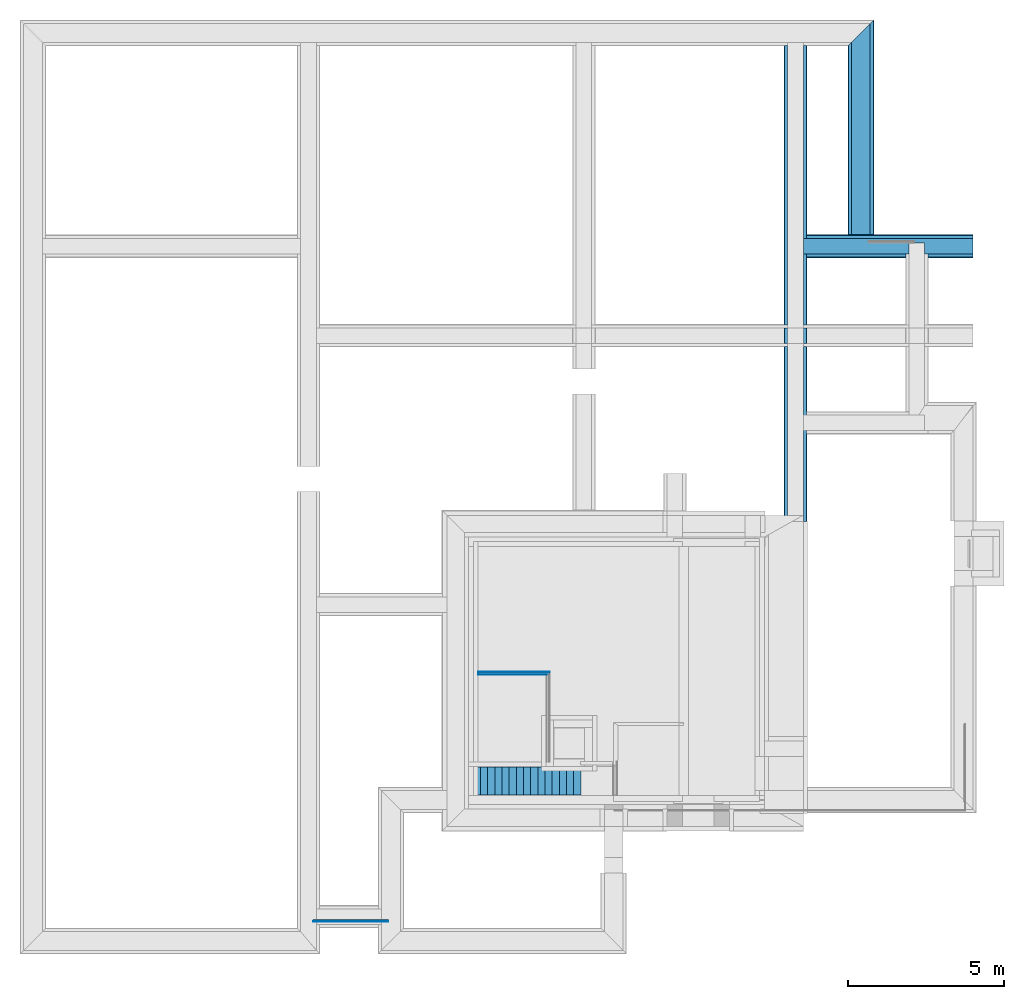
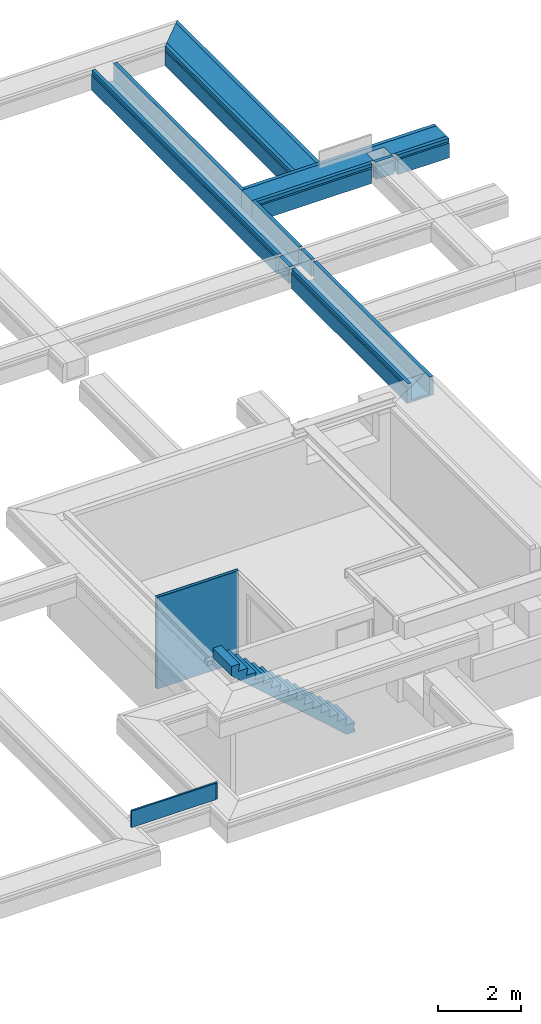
# One storey, part 5 of 11: 5 beams, 5 building element parts, 1 stair flight, 3 elements without a shape of their own.
"""IFC2X3 building model written with IfcOpenShell, lengths in millimetres."""

from ifc_helpers import new_model, entity, si_unit, converted_unit, derived_unit, money_unit, direction, frame, origin_with_axes, place, context, subcontext, project, spatial, faceted_brep, material, type_object, element, aggregate, save


model = new_model("IFC2X3")

# Units and contexts
model_context = context("Model", 3, precision=0.01, world=origin_with_axes(), true_north=direction((0.0, 1.0)))
body_context = subcontext(model_context, "Body", "Model", "MODEL_VIEW")
ifc_project = project(units=[si_unit("LENGTHUNIT", "METRE", prefix="MILLI"), si_unit("AREAUNIT", "SQUARE_METRE"), si_unit("VOLUMEUNIT", "CUBIC_METRE"), converted_unit("PLANEANGLEUNIT", "DEGREE", entity("IfcPlaneAngleMeasure", 0.0174532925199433), si_unit("PLANEANGLEUNIT", "RADIAN"), dimensions=[0, 0, 0, 0, 0, 0, 0]), money_unit("EUR"), converted_unit("TIMEUNIT", "Year", entity("IfcTimeMeasure", 31556926.0), si_unit("TIMEUNIT", "SECOND"), dimensions=[0, 0, 1, 0, 0, 0, 0]), si_unit("MASSUNIT", "GRAM", prefix="KILO"), si_unit("THERMODYNAMICTEMPERATUREUNIT", "DEGREE_CELSIUS"), si_unit("LUMINOUSINTENSITYUNIT", "LUMEN"), si_unit("ENERGYUNIT", "JOULE", prefix="MEGA"), derived_unit("THERMALCONDUCTANCEUNIT", [(si_unit("POWERUNIT", "WATT"), 1), (si_unit("LENGTHUNIT", "METRE"), -1), (si_unit("THERMODYNAMICTEMPERATUREUNIT", "KELVIN"), -1)]), derived_unit("SPECIFICHEATCAPACITYUNIT", [(si_unit("ENERGYUNIT", "JOULE"), 1), (si_unit("MASSUNIT", "GRAM", prefix="KILO"), -1), (si_unit("THERMODYNAMICTEMPERATUREUNIT", "KELVIN"), -1)]), derived_unit("MASSDENSITYUNIT", [(si_unit("MASSUNIT", "GRAM", prefix="KILO"), 1), (si_unit("VOLUMEUNIT", "CUBIC_METRE"), -1)])], contexts=[model_context])

# Site, building, storey
site_placement = place(None, origin_with_axes())
site = spatial("IfcSite", under=ifc_project, at=site_placement, Name="Site", CompositionType="ELEMENT")
building_placement = place(site_placement, origin_with_axes())
building = spatial("IfcBuilding", under=site, at=building_placement, Name="Naam gebouw", CompositionType="ELEMENT")
storey_placement = place(building_placement, frame((0.0, 0.0, -3060.0), z_axis=(0.0, 0.0, 1.0), x_axis=(1.0, 0.0, 0.0)))
storey = spatial("IfcBuildingStorey", under=building, at=storey_placement, Name="Kelder", CompositionType="ELEMENT", Elevation=-3060.0)

# Beams
ifc_material_1 = material(Name="Beton gewapend C")
beam_type_1 = type_object("IfcBeamType", Name="16 Fundering - betonbalk 600 x 500", PredefinedType="BEAM")
beam_1_placement = place(storey_placement, frame((26600.00000000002, 29175.0, 2575.0), z_axis=(0.0, 0.0, 1.0), x_axis=(-1.0, 0.0, 0.0)))
element("IfcBeam", 1, at=beam_1_placement, inside=storey, type_object=beam_type_1, material=ifc_material_1, Name="f2- Met cement gebonden producten (alle vulmiddelen)_Regenwaterafvoer-x", ObjectType="BEAM", context=body_context, shape_type="Brep", body=[
    faceted_brep([(300.0000000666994, 300.0000000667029, 0.0), (300.0000000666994, 6600.023785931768, 0.0), (-300.0000000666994, 6600.023785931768, 0.0), (-300.0000000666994, -300.0000000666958, 0.0), (300.0000000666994, 300.0000000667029, -500.0000000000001), (300.0000000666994, 6600.023785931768, -500.0000000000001), (-300.0000000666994, 6600.023785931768, -500.0000000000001), (-300.0000000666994, -300.0000000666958, -500.0000000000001)], [[[0, 1, 2, 3]], [[4, 5, 1, 0]], [[5, 6, 2, 1]], [[3, 2, 6, 7]], [[4, 0, 3, 7]], [[7, 6, 5, 4]]]),
])
beam_type_2 = type_object("IfcBeamType", Name="16 Fundering - betonbalk 500 x 500", PredefinedType="BEAM")
beam_2_placement = place(storey_placement, frame((24499.9990399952, 22324.97621406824, 2575.0), z_axis=(0.0, 0.0, 1.0), x_axis=(0.0, -1.0, 0.0)))
element("IfcBeam", 2, at=beam_2_placement, inside=storey, type_object=beam_type_2, material=ifc_material_1, Name="f2- Met cement gebonden producten (alle vulmiddelen)_Regenwaterafvoer-x", ObjectType="BEAM", context=body_context, shape_type="Brep", body=[
    faceted_brep([(250.0, 250.0004497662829, 0.0), (250.0, 3650.000935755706, 0.0), (-100.0000041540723, 3650.000940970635, 0.0), (-99.99999670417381, 4150.000940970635, 0.0), (250.0, 4150.000935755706, 0.0), (250.0, 5700.000960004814, 0.0), (-250.0, 5700.000960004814, 0.0), (-250.0, 250.000419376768, 0.0), (250.0, 250.0004497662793, -500.0000000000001), (250.0, 3650.000935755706, -500.0000000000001), (-100.0000041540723, 3650.000940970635, -500.0000000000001), (-99.99999670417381, 4150.000940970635, -500.0000000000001), (250.0, 4150.000935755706, -500.0000000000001), (250.0, 5700.000960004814, -500.0000000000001), (-250.0, 5700.000960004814, -500.0000000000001), (-250.0, 250.0004193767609, -500.0000000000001)], [[[0, 1, 2, 3, 4, 5, 6, 7]], [[8, 9, 1, 0]], [[10, 2, 1, 9]], [[11, 3, 2, 10]], [[12, 4, 3, 11]], [[5, 4, 12, 13]], [[14, 6, 5, 13]], [[6, 14, 15, 7]], [[15, 8, 0, 7]], [[11, 10, 9, 8, 15, 14, 13, 12]]]),
])
ifc_material_2 = material(Name="Isolatie - Kunststof hard")
beam_type_3 = type_object("IfcBeamType", Name="16 Fundering - EPS kist 600x500 840 x 570", PredefinedType="BEAM")
beam_3_placement = place(storey_placement, frame((26599.99999999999, 29175.0, 2575.0), z_axis=(0.0, 0.0, 1.0), x_axis=(-1.0, 0.0, 0.0)))
element("IfcBeam", 3, at=beam_3_placement, inside=storey, type_object=beam_type_3, material=ifc_material_2, Name="n7 Kunststof met cellenstructuur_Regenwaterafvoer-x", ObjectType="BEAM", context=body_context, shape_type="Brep", body=[
    faceted_brep([(-399.9999999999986, -399.999999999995, -101.4342864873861), (-399.9999999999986, 6500.023782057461, -101.4342843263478), (-420.0000000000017, 6480.023785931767, -130.9350866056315), (-419.9999999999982, -419.9999999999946, -130.9350848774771), (-399.9999999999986, -399.999999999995, 0.0), (-399.9999999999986, 6500.023782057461, 5.364423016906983e-06), (-300.0000000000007, 6480.023785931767, -130.9350866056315), (-300.0000000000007, 6500.023782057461, -101.4342843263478), (-420.0000000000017, 6480.023785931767, -570.0000000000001), (-419.9999999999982, -419.9999999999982, -570.0000000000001), (399.9999999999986, 399.999999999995, 0.0), (300.0000000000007, 299.9999999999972, 0.0), (300.0000000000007, 299.9999999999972, -500.0000000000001), (-300.0000000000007, -299.9999999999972, -500.0000000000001), (-300.0000000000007, -299.9999999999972, 0.0), (420.0000000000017, 419.9999999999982, -570.0000000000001), (420.0000000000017, 419.9999999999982, -130.935084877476), (399.9999999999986, 399.999999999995, -101.434286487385), (-300.0000000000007, 6500.023782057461, 5.364423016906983e-06), (420.0000000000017, 6480.023785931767, -570.0000000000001), (-300.0000000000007, 6480.023785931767, -500.0000000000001), (300.0000000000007, 6480.023785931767, -500.0000000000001), (300.0000000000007, 6480.023785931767, -130.9350866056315), (420.0000000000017, 6480.023785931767, -130.9350866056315), (399.9999999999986, 6500.023782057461, 5.364423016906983e-06), (300.0000000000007, 6500.023782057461, 5.364423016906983e-06), (300.0000000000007, 6500.023782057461, -101.4342843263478), (399.9999999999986, 6500.023782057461, -101.4342843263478)], [[[0, 1, 2, 3]], [[4, 5, 1, 0]], [[6, 2, 1, 7]], [[3, 2, 8, 9]], [[10, 11, 12, 13, 14, 4, 0, 3, 9, 15, 16, 17]], [[14, 18, 5, 4]], [[7, 1, 5, 18]], [[19, 8, 2, 6, 20, 21, 22, 23]], [[6, 7, 18, 14, 13, 20]], [[9, 8, 19, 15]], [[10, 24, 25, 11]], [[26, 22, 21, 12, 11, 25]], [[12, 21, 20, 13]], [[15, 19, 23, 16]], [[16, 23, 27, 17]], [[17, 27, 24, 10]], [[23, 22, 26, 27]], [[27, 26, 25, 24]]]),
])
beam_type_4 = type_object("IfcBeamType", Name="16 Fundering - EPS kist 500x500 740 x 570", PredefinedType="BEAM")
beam_4_placement = place(storey_placement, frame((24499.99903999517, 22324.97621406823, 2575.0), z_axis=(0.0, 0.0, 1.0), x_axis=(0.0, -1.0, 0.0)))
element("IfcBeam", 4, at=beam_4_placement, inside=storey, type_object=beam_type_4, material=ifc_material_2, Name="n7 Kunststof met cellenstructuur_Regenwaterafvoer-x", ObjectType="BEAM", context=body_context, shape_type="Brep", body=[
    faceted_brep([(250.0, 4150.000935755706, 5.279321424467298e-08), (250.0, 3650.000935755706, 6.982331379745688e-08), (350.0000000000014, 3650.000934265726, 8.977280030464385e-08), (350.0000000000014, 4150.000934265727, 6.787698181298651e-08), (250.0, 4150.000935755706, -500.0000000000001), (250.0, 3650.000935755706, -500.0000000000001), (350.0000000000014, 3650.000934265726, -101.4342856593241), (370.000000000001, 3650.000933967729, -500.0000000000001), (370.000000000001, 3650.000933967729, -130.9350855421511), (350.0000000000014, 4150.000934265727, -101.4342858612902), (370.000000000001, 4150.000933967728, -500.0000000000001), (370.000000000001, 4150.000933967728, -130.9350853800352)], [[[0, 1, 2, 3]], [[4, 5, 1, 0]], [[6, 2, 1, 5, 7, 8]], [[6, 9, 3, 2]], [[10, 4, 0, 3, 9, 11]], [[7, 5, 4, 10]], [[7, 10, 11, 8]], [[8, 11, 9, 6]]]),
    faceted_brep([(-100.0000059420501, 3530.000940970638, -500.0000000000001), (-100.0000041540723, 3650.000940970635, -500.0000000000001), (-99.99999670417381, 4150.000940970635, -500.0000000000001), (-99.99999491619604, 4270.000940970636, -500.0000000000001), (250.0, 4270.000935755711, -500.0000000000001), (250.0, 5700.000960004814, -500.0000000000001), (-250.0, 5700.000960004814, -500.0000000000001), (-250.0, 370.000000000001, -500.0000000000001), (250.0, 370.000000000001, -500.0000000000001), (250.0, 3530.000935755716, -500.0000000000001), (-99.99999491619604, 4270.000940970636, -570.0000000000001), (-100.0000059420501, 3530.000940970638, -570.0000000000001), (250.0, 4270.000935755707, -130.9350848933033), (370.000000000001, 4270.000933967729, -570.0000000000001), (370.000000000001, 4270.000933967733, -130.9350848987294), (250.0, 4250.000935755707, -101.4342864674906), (250.0, 4250.000935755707, 4.938721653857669e-08), (250.0, 5700.000960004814, 0.0), (-370.000000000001, 5700.000960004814, -130.9350848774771), (-349.9999999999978, 5700.000960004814, -101.4342864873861), (-349.9999999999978, 5700.000960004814, 0.0), (-250.0, 5700.000960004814, 0.0), (350.0000000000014, 5700.000960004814, 0.0), (350.0000000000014, 5700.000960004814, -101.434286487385), (370.000000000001, 5700.000960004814, -130.935084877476), (370.000000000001, 5700.000960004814, -570.0000000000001), (-370.000000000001, 5700.000960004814, -570.0000000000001), (-250.0, 350.0000038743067, 5.364423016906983e-06), (-250.0, 350.0000038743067, -101.4342843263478), (-250.0, 370.000000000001, -130.9350866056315), (-370.000000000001, 370.000000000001, -130.9350866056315), (-370.000000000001, 370.000000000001, -570.0000000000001), (370.000000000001, 370.000000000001, -570.0000000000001), (370.000000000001, 370.000000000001, -130.9350866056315), (250.0, 370.000000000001, -130.9350866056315), (250.0, 3550.000935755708, -101.434286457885), (250.0, 3530.000935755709, -130.9350849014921), (250.0, 350.0000038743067, -101.4342843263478), (250.0, 350.0000038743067, 5.364423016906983e-06), (250.0, 3550.000935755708, 7.322931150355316e-08), (370.000000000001, 3530.000933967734, -130.9350849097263), (370.000000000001, 3530.000933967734, -570.0000000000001), (350.0000000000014, 4250.000934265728, -101.4342864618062), (350.0000000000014, 4250.000934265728, 6.349781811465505e-08), (-349.9999999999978, 350.0000038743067, -101.4342843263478), (-349.9999999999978, 350.0000038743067, 5.364423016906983e-06), (350.0000000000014, 350.0000038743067, -101.4342843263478), (350.0000000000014, 3550.000934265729, -101.4342864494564), (350.0000000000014, 350.0000038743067, 5.364423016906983e-06), (350.0000000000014, 3550.000934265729, 9.415196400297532e-08)], [[[0, 1, 2, 3, 4, 5, 6, 7, 8, 9]], [[10, 3, 2, 1, 0, 11]], [[12, 4, 3, 10, 13, 14]], [[12, 15, 16, 17, 5, 4]], [[18, 19, 20, 21, 6, 5, 17, 22, 23, 24, 25, 26]], [[27, 28, 29, 7, 6, 21]], [[7, 29, 30, 31, 32, 33, 34, 8]], [[35, 36, 9, 8, 34, 37, 38, 39]], [[11, 0, 9, 36, 40, 41]], [[10, 11, 41, 32, 31, 26, 25, 13]], [[24, 14, 13, 25]], [[42, 15, 12, 14]], [[42, 43, 16, 15]], [[17, 16, 43, 22]], [[19, 18, 30, 44]], [[20, 19, 44, 45]], [[21, 20, 45, 27]], [[22, 43, 42, 23]], [[23, 42, 14, 24]], [[18, 26, 31, 30]], [[44, 28, 27, 45]], [[29, 28, 44, 30]], [[32, 41, 40, 33]], [[33, 46, 37, 34]], [[40, 36, 35, 47]], [[37, 46, 48, 38]], [[48, 49, 39, 38]], [[47, 35, 39, 49]], [[33, 40, 47, 46]], [[46, 47, 49, 48]]]),
])
beam_5_placement = place(storey_placement, frame((24499.99903999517, 29175.0, 2575.0), z_axis=(0.0, 0.0, 1.0), x_axis=(-1.0, 0.0, 0.0)))
element("IfcBeam", 5, at=beam_5_placement, inside=storey, type_object=beam_type_4, material=ifc_material_2, Name="n7 Kunststof met cellenstructuur_Regenwaterafvoer-x", ObjectType="BEAM", context=body_context, shape_type="Brep", body=[
    faceted_brep([(-370.000000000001, 9355.000188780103, -570.0000000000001), (-369.9999999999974, 419.9999999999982, -570.0000000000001), (-369.9999999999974, 419.9999999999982, -130.935088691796), (-369.9999999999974, 9355.000188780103, -130.9350844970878), (370.000000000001, 9355.000188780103, -570.0000000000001), (370.0000000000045, 419.9999999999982, -570.0000000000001), (-250.0, 419.9999999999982, -130.935088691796), (370.0000000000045, 419.9999999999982, -130.935088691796), (250.0, 419.9999999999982, -130.935088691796), (250.0, 419.9999999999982, -500.0000000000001), (-250.0, 419.9999999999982, -500.0000000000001), (-349.9999999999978, 399.999994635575, -101.4342893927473), (-349.9999999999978, 9375.000188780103, -101.4342862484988), (370.000000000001, 9355.000188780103, -130.9350844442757), (-250.0, 9355.000188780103, -130.9350844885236), (-250.0, 9355.000188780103, -500.0000000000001), (250.0, 9355.000188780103, -500.0000000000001), (250.0, 9355.000188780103, -130.9350844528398), (-250.0, 399.999994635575, -101.4342893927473), (350.0000000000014, 399.999994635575, -101.4342893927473), (250.0, 399.999994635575, -101.4342893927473), (250.0, 399.999994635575, -3.576282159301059e-06), (250.0, 9375.000188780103, -1.634323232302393e-07), (250.0, 9375.000188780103, -101.4342862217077), (-250.0, 9375.000188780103, -101.4342862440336), (-250.0, 9375.000188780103, -1.496984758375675e-07), (-250.0, 399.999994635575, -3.576282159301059e-06), (-349.9999999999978, 399.999994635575, -3.576282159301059e-06), (-349.9999999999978, 9375.000188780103, -1.469517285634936e-07), (350.0000000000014, 9375.000188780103, -101.4342862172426), (350.0000000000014, 399.999994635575, -3.576282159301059e-06), (349.9999999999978, 9375.000188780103, -1.661790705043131e-07)], [[[0, 1, 2, 3]], [[4, 5, 1, 0]], [[6, 2, 1, 5, 7, 8, 9, 10]], [[3, 2, 11, 12]], [[13, 4, 0, 3, 14, 15, 16, 17]], [[13, 7, 5, 4]], [[18, 11, 2, 6]], [[19, 20, 8, 7]], [[8, 20, 21, 22, 23, 17, 16, 9]], [[15, 10, 9, 16]], [[18, 6, 10, 15, 14, 24, 25, 26]], [[12, 11, 27, 28]], [[24, 14, 3, 12]], [[29, 13, 17, 23]], [[29, 19, 7, 13]], [[18, 26, 27, 11]], [[19, 30, 21, 20]], [[22, 21, 30, 31]], [[31, 29, 23, 22]], [[25, 24, 12, 28]], [[28, 27, 26, 25]], [[31, 30, 19, 29]]]),
    faceted_brep([(250.0, 9975.000188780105, -1.634323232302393e-07), (249.9999999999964, 9975.000188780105, -500.0000000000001), (250.0, 9475.000188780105, -500.0000000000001), (250.0, 9475.000188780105, -1.634323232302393e-07), (370.000000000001, 9975.000188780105, -500.0000000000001), (349.9999999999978, 9975.000188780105, -1.661790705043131e-07), (350.0000000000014, 9975.000188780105, -101.4342875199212), (370.000000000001, 9975.000188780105, -130.9350834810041), (370.000000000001, 9475.000188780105, -500.0000000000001), (350.0000000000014, 9475.000188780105, -101.4342876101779), (350.0000000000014, 9475.000188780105, -1.661790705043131e-07), (370.000000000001, 9475.000188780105, -130.9350833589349)], [[[0, 1, 2, 3]], [[4, 1, 0, 5, 6, 7]], [[8, 2, 1, 4]], [[9, 10, 3, 2, 8, 11]], [[10, 5, 0, 3]], [[9, 6, 5, 10]], [[11, 7, 6, 9]], [[8, 4, 7, 11]]]),
    faceted_brep([(-370.000000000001, 15695.0, -570.0000000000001), (-370.000000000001, 10095.0001887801, -570.0000000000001), (-369.9999999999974, 10095.0001887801, -130.9350844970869), (-370.000000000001, 15695.0, -130.9350848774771), (369.9999999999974, 15695.0, -570.0000000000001), (370.000000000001, 10095.0001887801, -570.0000000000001), (-250.0, 10095.0001887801, -130.9350844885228), (370.000000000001, 10095.0001887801, -130.9350844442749), (250.0, 10095.0001887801, -130.935084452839), (250.0, 10095.0001887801, -500.0000000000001), (-250.0, 10095.0001887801, -500.0000000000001), (-349.9999999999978, 10075.0001887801, -101.434286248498), (-350.0000000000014, 15695.0, -101.4342864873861), (-350.0000000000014, 15695.0, 0.0), (-250.0000000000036, 15695.0, 0.0), (-250.0000000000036, 15695.0, -500.0000000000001), (249.9999999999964, 15695.0, -500.0000000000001), (249.9999999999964, 15695.0, 0.0), (349.9999999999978, 15695.0, 0.0), (349.9999999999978, 15695.0, -101.434286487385), (369.9999999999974, 15695.0, -130.935084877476), (-250.0, 10075.0001887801, -101.4342862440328), (350.0000000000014, 10075.0001887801, -101.4342862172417), (250.0, 10075.0001887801, -101.4342862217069), (250.0, 10075.0001887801, -1.634323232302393e-07), (-250.0, 10075.0001887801, -1.496984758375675e-07), (-349.9999999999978, 10075.0001887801, -1.469517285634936e-07), (350.0000000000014, 10075.0001887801, -1.661790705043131e-07)], [[[0, 1, 2, 3]], [[4, 5, 1, 0]], [[6, 2, 1, 5, 7, 8, 9, 10]], [[3, 2, 11, 12]], [[12, 13, 14, 15, 16, 17, 18, 19, 20, 4, 0, 3]], [[20, 7, 5, 4]], [[21, 11, 2, 6]], [[22, 23, 8, 7]], [[8, 23, 24, 17, 16, 9]], [[15, 10, 9, 16]], [[21, 6, 10, 15, 14, 25]], [[12, 11, 26, 13]], [[13, 26, 25, 14]], [[17, 24, 27, 18]], [[18, 27, 22, 19]], [[19, 22, 7, 20]], [[21, 25, 26, 11]], [[22, 27, 24, 23]]]),
    faceted_brep([(-369.9999999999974, 9975.000188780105, -130.9350834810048), (-369.9999999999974, 9975.000188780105, -500.0000000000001), (-369.9999999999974, 9475.000188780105, -500.0000000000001), (-369.9999999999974, 9475.000188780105, -130.9350833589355), (-250.0, 9975.000188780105, -500.0000000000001), (-349.9999999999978, 9975.000188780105, -101.434287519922), (-349.9999999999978, 9975.000188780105, -1.469517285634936e-07), (-250.0, 9975.000188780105, -1.496984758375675e-07), (-250.0, 9475.000188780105, -500.0000000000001), (-349.9999999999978, 9475.000188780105, -1.469517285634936e-07), (-349.9999999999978, 9475.000188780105, -101.4342876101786), (-250.0, 9475.000188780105, -1.496984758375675e-07)], [[[0, 1, 2, 3]], [[4, 1, 0, 5, 6, 7]], [[8, 2, 1, 4]], [[9, 10, 3, 2, 8, 11]], [[10, 5, 0, 3]], [[9, 6, 5, 10]], [[11, 7, 6, 9]], [[8, 4, 7, 11]]]),
])

# Stair, stair flight
stair_placement = place(storey_placement, frame((17600.00000000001, 4693.999999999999, 0.0), z_axis=(0.0, 0.0, 1.0), x_axis=(1.0, 0.0, 0.0)))
stair = element("IfcStair", 6, at=stair_placement, inside=storey, Name="24_Trap-x", ShapeType="NOTDEFINED")
ifc_material_3 = material(Name="Beton gewapend prefab")
stair_flight_type = type_object("IfcStairFlightType", Name="IfcStairFlight", PredefinedType="NOTDEFINED")
stair_flight_placement = place(stair_placement, origin_with_axes())
stair_flight = element("IfcStairFlight", 7, at=stair_flight_placement, type_object=stair_flight_type, material=ifc_material_3, Name="24_Trapconstructie-x", context=body_context, shape_type="Brep", body=[
    faceted_brep([(0.0, 0.0, 0.0), (0.0, 0.0, -70.00000000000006), (0.0, 900.0, -70.00000000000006), (0.0, 900.0, 0.0), (-306.6666666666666, 0.0, -7.060748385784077), (-235.7057457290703, 0.0, -70.00000000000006), (-43.36153858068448, 0.0, 0.0), (0.0, 0.0, 203.9999999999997), (-273.3615385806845, 0.0, 203.9999999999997), (-230.0, 0.0, 407.9999999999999), (-503.3615385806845, 0.0, 407.9999999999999), (-459.9999999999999, 0.0, 612.0000000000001), (-733.3615385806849, 0.0, 612.0000000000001), (-690.0, 0.0, 815.9999999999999), (-963.3615385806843, 0.0, 815.9999999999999), (-919.9999999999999, 0.0, 1020.0), (-1193.361538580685, 0.0, 1020.0), (-1150.0, 0.0, 1224.0), (-1423.361538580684, 0.0, 1224.0), (-1380.0, 0.0, 1427.999999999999), (-1653.361538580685, 0.0, 1428.0), (-1610.0, 0.0, 1632.0), (-1883.361538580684, 0.0, 1632.0), (-1840.0, 0.0, 1836.0), (-2113.361538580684, 0.0, 1836.0), (-2070.0, 0.0, 2039.999999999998), (-2343.361538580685, 0.0, 2040.0), (-2300.0, 0.0, 2244.0), (-2573.361538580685, 0.0, 2244.0), (-2530.0, 0.0, 2448.0), (-2803.361538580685, 0.0, 2448.0), (-2760.0, 0.0, 2652.0), (-3033.361538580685, 0.0, 2652.0), (-2990.0, 0.0, 2856.0), (-3263.361538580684, 0.0, 2856.0), (-3220.0, 0.0, 3059.999999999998), (-3450.0, 0.0, 3060.0), (-3450.0, 0.0, 2780.939251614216), (-3373.333333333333, 0.0, 2712.939251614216), (-3296.666666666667, 0.0, 2644.939251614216), (-3220.0, 0.0, 2576.939251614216), (-3143.333333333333, 0.0, 2508.939251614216), (-3066.666666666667, 0.0, 2440.939251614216), (-2990.0, 0.0, 2372.939251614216), (-2913.333333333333, 0.0, 2304.939251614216), (-2836.666666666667, 0.0, 2236.939251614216), (-2760.0, 0.0, 2168.939251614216), (-2683.333333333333, 0.0, 2100.939251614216), (-2606.666666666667, 0.0, 2032.939251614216), (-2530.0, 0.0, 1964.939251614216), (-2453.333333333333, 0.0, 1896.939251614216), (-2376.666666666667, 0.0, 1828.939251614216), (-2300.0, 0.0, 1760.939251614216), (-2223.333333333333, 0.0, 1692.939251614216), (-2146.666666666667, 0.0, 1624.939251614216), (-2070.0, 0.0, 1556.939251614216), (-1993.333333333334, 0.0, 1488.939251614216), (-1916.666666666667, 0.0, 1420.939251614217), (-1840.0, 0.0, 1352.939251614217), (-1763.333333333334, 0.0, 1284.939251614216), (-1686.666666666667, 0.0, 1216.939251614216), (-1610.0, 0.0, 1148.939251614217), (-1533.333333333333, 0.0, 1080.939251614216), (-1456.666666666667, 0.0, 1012.939251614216), (-1380.0, 0.0, 944.9392516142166), (-1303.333333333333, 0.0, 876.9392516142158), (-1226.666666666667, 0.0, 808.9392516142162), (-1150.0, 0.0, 740.9392516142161), (-1073.333333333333, 0.0, 672.9392516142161), (-996.6666666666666, 0.0, 604.939251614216), (-919.9999999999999, 0.0, 536.939251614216), (-843.3333333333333, 0.0, 468.9392516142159), (-766.6666666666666, 0.0, 400.9392516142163), (-690.0, 0.0, 332.9392516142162), (-613.3333333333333, 0.0, 264.9392516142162), (-536.6666666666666, 0.0, 196.9392516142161), (-459.9999999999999, 0.0, 128.939251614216), (-383.3333333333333, 0.0, 60.93925161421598), (-235.7057457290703, 900.0000000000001, -70.00000000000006), (-3220.0, 900.0000000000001, 2576.939251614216), (-3296.666666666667, 900.0000000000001, 2644.939251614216), (-3373.333333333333, 900.0000000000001, 2712.939251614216), (-3450.0, 900.0000000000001, 2780.939251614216), (-3450.0, 900.0, 3060.0), (-3220.0, 900.0, 3059.999999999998), (-3263.361538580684, 900.0, 2856.0), (-2990.0, 900.0, 2856.0), (-3033.361538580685, 900.0, 2652.0), (-2760.0, 900.0, 2652.0), (-2803.361538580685, 900.0, 2448.0), (-2530.0, 900.0, 2448.0), (-2573.361538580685, 900.0, 2244.0), (-2300.0, 900.0, 2244.0), (-2343.361538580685, 900.0, 2040.0), (-2070.0, 900.0, 2039.999999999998), (-2113.361538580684, 900.0, 1836.0), (-1840.0, 900.0, 1836.0), (-1883.361538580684, 900.0, 1632.0), (-1610.0, 900.0, 1632.0), (-1653.361538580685, 900.0, 1428.0), (-1380.0, 900.0, 1427.999999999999), (-1423.361538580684, 900.0, 1224.0), (-1150.0, 900.0, 1224.0), (-1193.361538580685, 900.0, 1020.0), (-919.9999999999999, 900.0, 1020.0), (-963.3615385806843, 900.0, 815.9999999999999), (-690.0, 900.0, 815.9999999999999), (-733.3615385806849, 900.0, 612.0000000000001), (-459.9999999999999, 900.0, 612.0000000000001), (-503.3615385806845, 900.0, 407.9999999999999), (-230.0, 900.0, 407.9999999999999), (-273.3615385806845, 900.0, 203.9999999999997), (0.0, 900.0, 203.9999999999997), (-43.36153858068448, 900.0, 0.0), (-306.6666666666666, 900.0000000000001, -7.060748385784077), (-383.3333333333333, 900.0000000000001, 60.93925161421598), (-459.9999999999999, 900.0000000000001, 128.939251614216), (-536.6666666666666, 900.0000000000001, 196.9392516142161), (-613.3333333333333, 900.0000000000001, 264.9392516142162), (-690.0, 900.0000000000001, 332.9392516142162), (-766.6666666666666, 900.0000000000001, 400.9392516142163), (-843.3333333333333, 900.0000000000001, 468.9392516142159), (-919.9999999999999, 900.0000000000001, 536.939251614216), (-996.6666666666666, 900.0000000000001, 604.939251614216), (-1073.333333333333, 900.0000000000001, 672.9392516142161), (-1150.0, 900.0000000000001, 740.9392516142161), (-1226.666666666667, 900.0000000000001, 808.9392516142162), (-1303.333333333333, 900.0000000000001, 876.9392516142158), (-1380.0, 900.0000000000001, 944.9392516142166), (-1456.666666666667, 900.0000000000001, 1012.939251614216), (-1533.333333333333, 900.0000000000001, 1080.939251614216), (-1610.0, 900.0000000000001, 1148.939251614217), (-1686.666666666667, 900.0000000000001, 1216.939251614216), (-1763.333333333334, 900.0000000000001, 1284.939251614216), (-1840.0, 900.0000000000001, 1352.939251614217), (-1916.666666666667, 900.0000000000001, 1420.939251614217), (-1993.333333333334, 900.0000000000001, 1488.939251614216), (-2070.0, 900.0000000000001, 1556.939251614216), (-2146.666666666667, 900.0000000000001, 1624.939251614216), (-2223.333333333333, 900.0000000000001, 1692.939251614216), (-2300.0, 900.0000000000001, 1760.939251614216), (-2376.666666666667, 900.0000000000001, 1828.939251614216), (-2453.333333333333, 900.0000000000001, 1896.939251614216), (-2530.0, 900.0000000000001, 1964.939251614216), (-2606.666666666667, 900.0000000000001, 2032.939251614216), (-2683.333333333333, 900.0000000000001, 2100.939251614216), (-2760.0, 900.0000000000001, 2168.939251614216), (-2836.666666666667, 900.0000000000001, 2236.939251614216), (-2913.333333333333, 900.0000000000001, 2304.939251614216), (-2990.0, 900.0000000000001, 2372.939251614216), (-3066.666666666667, 900.0000000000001, 2440.939251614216), (-3143.333333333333, 900.0000000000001, 2508.939251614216)], [[[0, 1, 2, 3]], [[4, 5, 1, 0, 6, 7, 8, 9, 10, 11, 12, 13, 14, 15, 16, 17, 18, 19, 20, 21, 22, 23, 24, 25, 26, 27, 28, 29, 30, 31, 32, 33, 34, 35, 36, 37, 38, 39, 40, 41, 42, 43, 44, 45, 46, 47, 48, 49, 50, 51, 52, 53, 54, 55, 56, 57, 58, 59, 60, 61, 62, 63, 64, 65, 66, 67, 68, 69, 70, 71, 72, 73, 74, 75, 76, 77]], [[5, 78, 2, 1]], [[79, 80, 81, 82, 83, 84, 85, 86, 87, 88, 89, 90, 91, 92, 93, 94, 95, 96, 97, 98, 99, 100, 101, 102, 103, 104, 105, 106, 107, 108, 109, 110, 111, 112, 113, 3, 2, 78, 114, 115, 116, 117, 118, 119, 120, 121, 122, 123, 124, 125, 126, 127, 128, 129, 130, 131, 132, 133, 134, 135, 136, 137, 138, 139, 140, 141, 142, 143, 144, 145, 146, 147, 148, 149, 150, 151]], [[3, 113, 6, 0]], [[5, 4, 114, 78]], [[112, 7, 6, 113]], [[8, 7, 112, 111]], [[110, 9, 8, 111]], [[10, 9, 110, 109]], [[108, 11, 10, 109]], [[12, 11, 108, 107]], [[106, 13, 12, 107]], [[14, 13, 106, 105]], [[104, 15, 14, 105]], [[16, 15, 104, 103]], [[102, 17, 16, 103]], [[18, 17, 102, 101]], [[100, 19, 18, 101]], [[20, 19, 100, 99]], [[98, 21, 20, 99]], [[22, 21, 98, 97]], [[96, 23, 22, 97]], [[24, 23, 96, 95]], [[94, 25, 24, 95]], [[26, 25, 94, 93]], [[92, 27, 26, 93]], [[28, 27, 92, 91]], [[90, 29, 28, 91]], [[30, 29, 90, 89]], [[88, 31, 30, 89]], [[32, 31, 88, 87]], [[86, 33, 32, 87]], [[34, 33, 86, 85]], [[84, 35, 34, 85]], [[84, 83, 36, 35]], [[36, 83, 82, 37]], [[38, 37, 82, 81]], [[39, 38, 81, 80]], [[40, 39, 80, 79]], [[41, 40, 79, 151]], [[42, 41, 151, 150]], [[43, 42, 150, 149]], [[44, 43, 149, 148]], [[45, 44, 148, 147]], [[46, 45, 147, 146]], [[47, 46, 146, 145]], [[48, 47, 145, 144]], [[49, 48, 144, 143]], [[50, 49, 143, 142]], [[51, 50, 142, 141]], [[52, 51, 141, 140]], [[53, 52, 140, 139]], [[54, 53, 139, 138]], [[55, 54, 138, 137]], [[56, 55, 137, 136]], [[57, 56, 136, 135]], [[58, 57, 135, 134]], [[59, 58, 134, 133]], [[60, 59, 133, 132]], [[61, 60, 132, 131]], [[62, 61, 131, 130]], [[63, 62, 130, 129]], [[64, 63, 129, 128]], [[65, 64, 128, 127]], [[66, 65, 127, 126]], [[67, 66, 126, 125]], [[68, 67, 125, 124]], [[69, 68, 124, 123]], [[70, 69, 123, 122]], [[71, 70, 122, 121]], [[72, 71, 121, 120]], [[73, 72, 120, 119]], [[74, 73, 119, 118]], [[75, 74, 118, 117]], [[76, 75, 117, 116]], [[77, 76, 116, 115]], [[4, 77, 115, 114]]]),
])
aggregate(stair, [stair_flight])

# Wall, building element parts
wall_type = type_object("IfcWallType", Name="21 Kantplank 60 60", PredefinedType="NOTDEFINED")
wall_placement = place(storey_placement, frame((9004.0, 679.999999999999, 2575.0), z_axis=(0.0, 0.0, 1.0), x_axis=(1.0, 0.0, 0.0)))
wall = element("IfcWall", 8, at=wall_placement, inside=storey, type_object=wall_type, Name="21_Wand-x")
building_element_part_1_placement = place(wall_placement, origin_with_axes())
building_element_part_1 = element("IfcBuildingElementPart", 9, at=building_element_part_1_placement, material=ifc_material_2, Name="Isolatie - Kunststof hard", context=body_context, shape_type="Brep", body=[
    faceted_brep([(2408.000003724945, 0.0, 0.0), (2408.000003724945, -49.99999999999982, 0.0), (0.0, -50.00000000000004, 0.0), (0.0, 0.0, 0.0), (2408.000003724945, 0.0, 484.9999999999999), (2408.000003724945, -49.99999999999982, 484.9999999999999), (0.0, -49.99999999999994, 484.9999999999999), (0.0, 0.0, 484.9999999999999)], [[[0, 1, 2, 3]], [[0, 4, 5, 1]], [[1, 5, 6, 2]], [[3, 2, 6, 7]], [[4, 0, 3, 7]], [[5, 4, 7, 6]]]),
])
ifc_material_4 = material(Name="Cementgebonden plaatmateriaal")
building_element_part_2_placement = place(wall_placement, origin_with_axes())
building_element_part_2 = element("IfcBuildingElementPart", 10, at=building_element_part_2_placement, material=ifc_material_4, Name="Cementgebonden plaatmateriaal", context=body_context, shape_type="Brep", body=[
    faceted_brep([(2408.000003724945, -49.99999999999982, 0.0), (2408.000003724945, -59.99999999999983, 0.0), (2406.000000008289, -59.99999999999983, 0.0), (2406.000000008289, -49.99999999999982, 0.0), (2408.000003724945, -49.99999999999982, 484.9999999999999), (2408.000003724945, -59.99999999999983, 484.9999999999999), (2406.000000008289, -59.99999999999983, 484.9999999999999), (2406.000000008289, -49.99999999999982, 484.9999999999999)], [[[0, 1, 2, 3]], [[0, 4, 5, 1]], [[1, 5, 6, 2]], [[3, 2, 6, 7]], [[4, 0, 3, 7]], [[5, 4, 7, 6]]]),
    faceted_brep([(2356.000000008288, -59.99999999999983, 0.0), (0.0, -60.00000000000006, 0.0), (0.0, -50.00000000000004, 0.0), (2356.000000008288, -49.99999999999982, 0.0), (2356.000000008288, -59.99999999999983, 484.9999999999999), (0.0, -59.99999999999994, 484.9999999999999), (0.0, -49.99999999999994, 484.9999999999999), (2356.000000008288, -49.99999999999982, 484.9999999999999)], [[[0, 1, 2, 3]], [[4, 5, 1, 0]], [[2, 1, 5, 6]], [[3, 2, 6, 7]], [[3, 7, 4, 0]], [[7, 6, 5, 4]]]),
])
aggregate(wall, [building_element_part_1, building_element_part_2])

# Proxy, building element parts
building_element_proxy_type = type_object("IfcBuildingElementProxyType", Name="22 Metal stud 100 gips 100", PredefinedType="NOTDEFINED")
proxy_placement = place(storey_placement, frame((14300.56608417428, 8654.99997317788, 0.0), z_axis=(0.0, 0.0, 1.0), x_axis=(1.0, 0.0, 0.0)))
proxy = element("IfcBuildingElementProxy", 11, at=proxy_placement, inside=storey, type_object=building_element_proxy_type, Name="_Wand-x")
ifc_material_5 = material(Name="Gipsplaat")
building_element_part_3_placement = place(proxy_placement, origin_with_axes())
building_element_part_3 = element("IfcBuildingElementPart", 12, at=building_element_part_3_placement, material=ifc_material_5, Name="Gipsplaat", context=body_context, shape_type="Brep", body=[
    faceted_brep([(0.0, 0.0, 2700.0), (2299.999939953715, 0.0, 2700.0), (2299.999939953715, 0.0, 0.0), (0.0, 0.0, 0.0), (2299.999939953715, -12.49999999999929, 2700.0), (0.0, -12.49999999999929, 2700.0), (2299.999939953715, -12.49999999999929, 0.0), (0.0, -12.49999999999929, 0.0)], [[[0, 1, 2, 3]], [[4, 1, 0, 5]], [[1, 4, 6, 2]], [[2, 6, 7, 3]], [[5, 0, 3, 7]], [[4, 5, 7, 6]]]),
])
ifc_material_6 = material(Name="ALG - LICHTE SCHEIDINGSWAND")
building_element_part_4_placement = place(proxy_placement, origin_with_axes())
building_element_part_4 = element("IfcBuildingElementPart", 13, at=building_element_part_4_placement, material=ifc_material_6, Name="ALG - LICHTE SCHEIDINGSWAND", context=body_context, shape_type="Brep", body=[
    faceted_brep([(0.0, -12.49999999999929, 2700.0), (2287.499939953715, -12.49999999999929, 2700.0), (2287.499939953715, -12.49999999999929, 0.0), (0.0, -12.49999999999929, 0.0), (2287.499939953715, -87.50000000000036, 2700.0), (0.0, -87.50000000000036, 2700.0), (2287.499939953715, -87.50000000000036, 0.0), (0.0, -87.50000000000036, 0.0)], [[[0, 1, 2, 3]], [[4, 1, 0, 5]], [[1, 4, 6, 2]], [[2, 6, 7, 3]], [[5, 0, 3, 7]], [[4, 5, 7, 6]]]),
])
building_element_part_5_placement = place(proxy_placement, origin_with_axes())
building_element_part_5 = element("IfcBuildingElementPart", 14, at=building_element_part_5_placement, material=ifc_material_5, Name="Gipsplaat", context=body_context, shape_type="Brep", body=[
    faceted_brep([(0.0, -87.50000000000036, 2700.0), (2212.499939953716, -87.50000000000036, 2700.0), (2212.499939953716, -87.50000000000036, 0.0), (0.0, -87.50000000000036, 0.0), (2212.499939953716, -99.99999999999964, 2700.0), (0.0, -99.99999999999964, 2700.0), (2212.499939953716, -99.99999999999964, 0.0), (0.0, -99.99999999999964, 0.0)], [[[0, 1, 2, 3]], [[4, 1, 0, 5]], [[1, 4, 6, 2]], [[2, 6, 7, 3]], [[5, 0, 3, 7]], [[4, 5, 7, 6]]]),
])
aggregate(proxy, [building_element_part_3, building_element_part_4, building_element_part_5])

save(model, "model.ifc")
